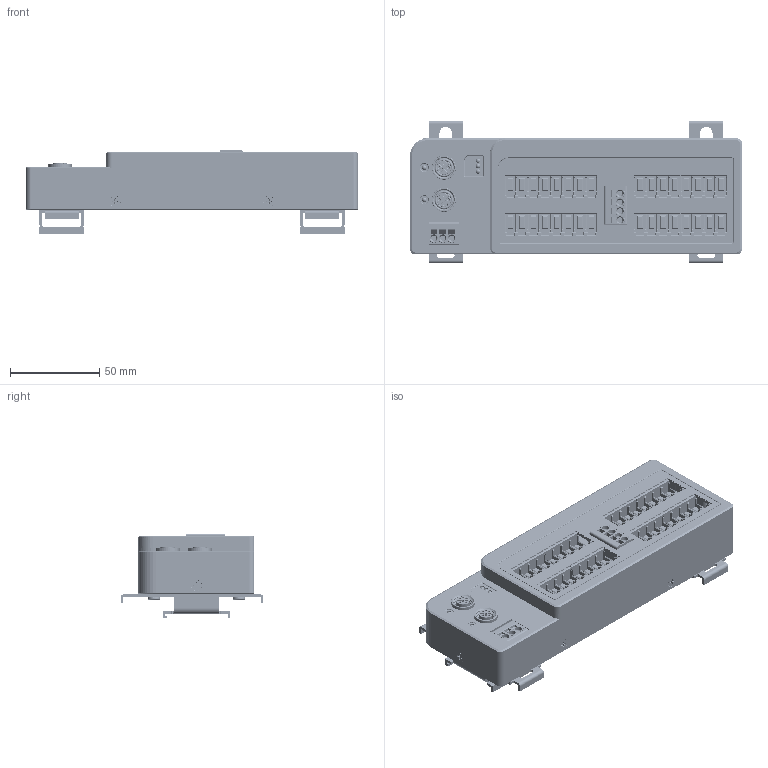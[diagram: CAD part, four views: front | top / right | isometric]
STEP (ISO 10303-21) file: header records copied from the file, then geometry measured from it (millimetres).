
FILE_DESCRIPTION((''),'2;1');
FILE_NAME('MR5201-EA_ASM_21_ASM_1_ASM','2025-04-16T10:31:18',('Administrator'),('yulong DESIGN'),'CREO PARAMETRIC BY PTC INC, 2021023','CREO PARAMETRIC BY PTC INC, 2021023','');
FILE_SCHEMA(('AUTOMOTIVE_DESIGN { 1 0 10303 214 1 1 1 1 }'));
Products named in the file (22): MR5201-EA_SKEL_2_1; FRONT_COVER_MR5201_30_1; REAR_COVER_MR5201_8_1; FRONT_PCBA_MR5201_29_1; REAR_PCBA_COMMON_26_1; DIN35_LATCH_L80_5_1_1; DIN35_LATCH_L80_5_2_1; DIN35_LATCH_L80_5_ASM_1_ASM; LIGHT_PIPE_11D7_PWR_2_1; LIGHT_PIPE_10_IO_1_1; MYLAR_NUBER_INDICATOR_13_1; SCREW_PH_M4X6_1_1; SCREW_FLAT_M3X8_1_1; SCREW_PH_M2D5X5_1_1; SCREWS_ASM_2_ASM_1_ASM; EK-B403_1; DINKLE_0177-5304_1; DINKLE_0177-5303_1; _5_1__10001_101_13; _5_2__10001_101_13; M12D_10001_ASM_101_ASM_13_ASM; MR5201-EA_ASM_21_ASM_1_ASM
Assembly tree (81 placements, depth 3):
  MR5201-EA_ASM_21_ASM_1_ASM
    MR5201-EA_SKEL_2_1
    FRONT_COVER_MR5201_30_1
    REAR_COVER_MR5201_8_1
    FRONT_PCBA_MR5201_29_1
    REAR_PCBA_COMMON_26_1
    DIN35_LATCH_L80_5_ASM_1_ASM  x2
      DIN35_LATCH_L80_5_1_1
      DIN35_LATCH_L80_5_2_1
    LIGHT_PIPE_11D7_PWR_2_1  x5
    LIGHT_PIPE_10_IO_1_1  x32
    MYLAR_NUBER_INDICATOR_13_1
    SCREWS_ASM_2_ASM_1_ASM
      SCREW_PH_M4X6_1_1  x4
      SCREW_FLAT_M3X8_1_1  x6
      SCREW_PH_M2D5X5_1_1  x9
    EK-B403_1  x8
    DINKLE_0177-5304_1
    DINKLE_0177-5303_1
    M12D_10001_ASM_101_ASM_13_ASM  x2
      _5_1__10001_101_13
      _5_2__10001_101_13
Bounding box: 186 x 80 x 47.4 mm (x, y, z)
Volume: 151069.8 mm3; surface area: 169475.3 mm2
Topology: 79 solids, 310 shells, 8518 faces, 25377 edges, 17415 vertices
Faces by surface type: plane 5363, cylinder 2127, cone 445, bspline 263, torus 201, sphere 89, revolution 26, extrusion 4
Entity records: 159332 total; most frequent: CARTESIAN_POINT 47303, ORIENTED_EDGE 18015, DIRECTION 17107, EDGE_CURVE 10447, VERTEX_POINT 7721, AXIS2_PLACEMENT_3D 5806, PRESENTATION_STYLE_ASSIGNMENT 5765, STYLED_ITEM 5701
